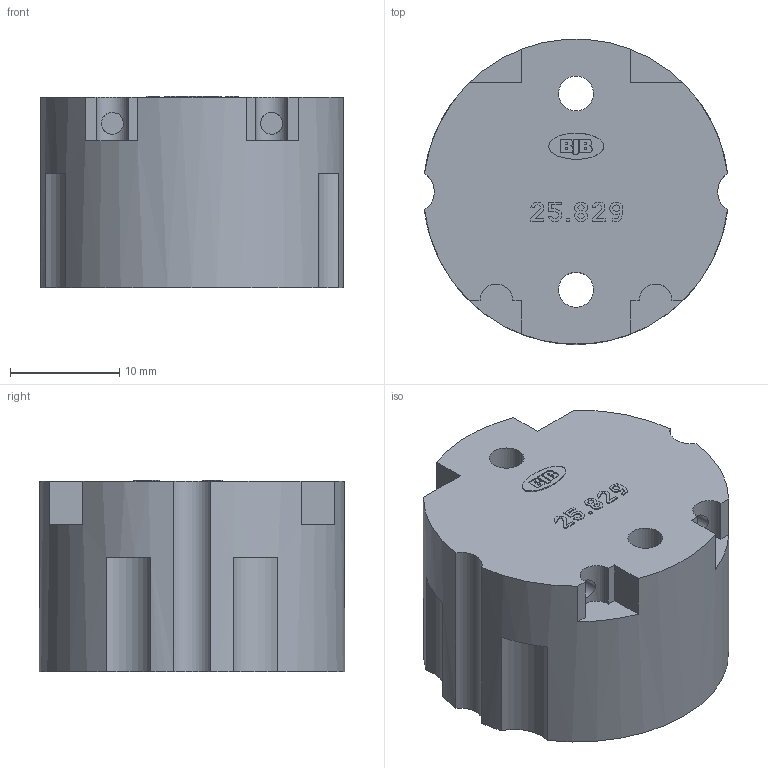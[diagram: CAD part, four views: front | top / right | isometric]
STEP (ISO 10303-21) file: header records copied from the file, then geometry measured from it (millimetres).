
FILE_DESCRIPTION(('Surface Model. B-Spline boundary curves.'),'1');
FILE_NAME('F:\ci-bearbeitung\00UYE00Z01.stp','2002-05-29 T',(' '),(' '),'STEP Interface v190.0 by CORETECH International','TRANS-3D v190.0 by CORETECH International',' ');
FILE_SCHEMA(('CONFIG_CONTROL_DESIGN'));
Length unit declared in the file: millimetre
Products named in the file (1): 00UYE00Z01
Bounding box: 27.8 x 28 x 17.6 mm (x, y, z)
Volume: 6909.1 mm3; surface area: 3943.7 mm2
Topology: 1 solids, 1 shells, 304 faces, 840 edges, 560 vertices
Faces by surface type: plane 247, cylinder 48, bspline 7, cone 2
Entity records: 9952 total; most frequent: CARTESIAN_POINT 2106, ORIENTED_EDGE 1680, DIRECTION 1524, EDGE_CURVE 840, VECTOR 704, LINE 704, VERTEX_POINT 560, AXIS2_PLACEMENT_3D 410
